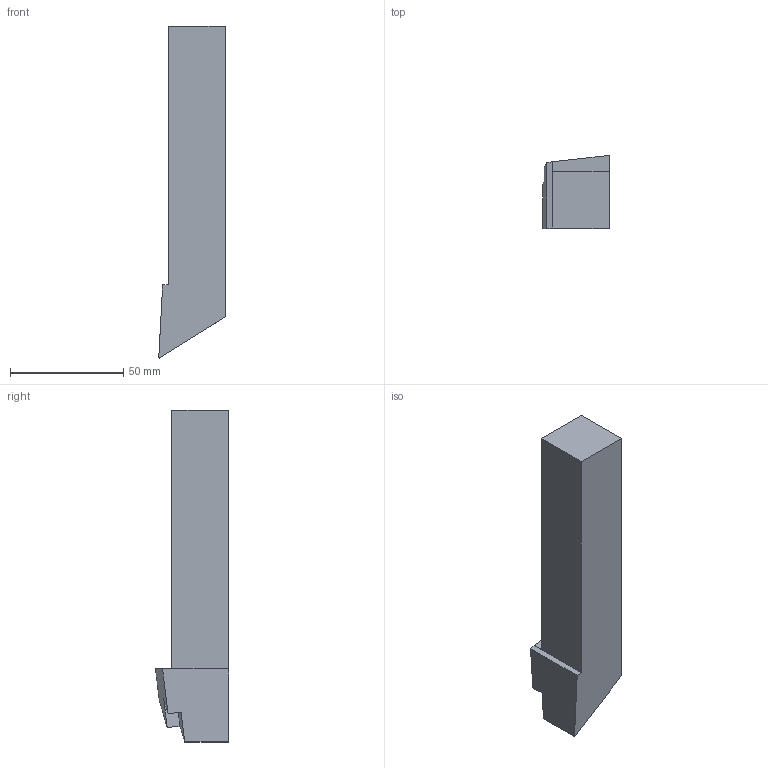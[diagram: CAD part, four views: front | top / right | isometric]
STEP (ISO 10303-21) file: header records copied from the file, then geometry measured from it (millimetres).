
FILE_DESCRIPTION(('no description'),'unknown implementation level');
FILE_NAME('solidzGiMUQ7bUdZ4Ri6NOvb_aK9kJiE_1.STP',' ',('CIMSOURCE GmbH'),('CADClick - KiM GmbH - www.kimweb.de'),'unknown preprocess','ACIS','unknown authorization');
FILE_SCHEMA(('automotive_design'));
Length unit declared in the file: millimetre
Products named in the file (1): NOCUT
Bounding box: 29.28 x 32.2 x 146.31 mm (x, y, z)
Volume: 89406.2 mm3; surface area: 15844.2 mm2
Topology: 1 solids, 1 shells, 27 faces, 71 edges, 47 vertices
Faces by surface type: plane 19, cylinder 8
Entity records: 1681 total; most frequent: DIRECTION 151, CARTESIAN_POINT 150, STYLED_ITEM 146, PRESENTATION_STYLE_ASSIGNMENT 146, COLOUR_RGB 146, ORIENTED_EDGE 142, EDGE_CURVE 71, CURVE_STYLE 71
